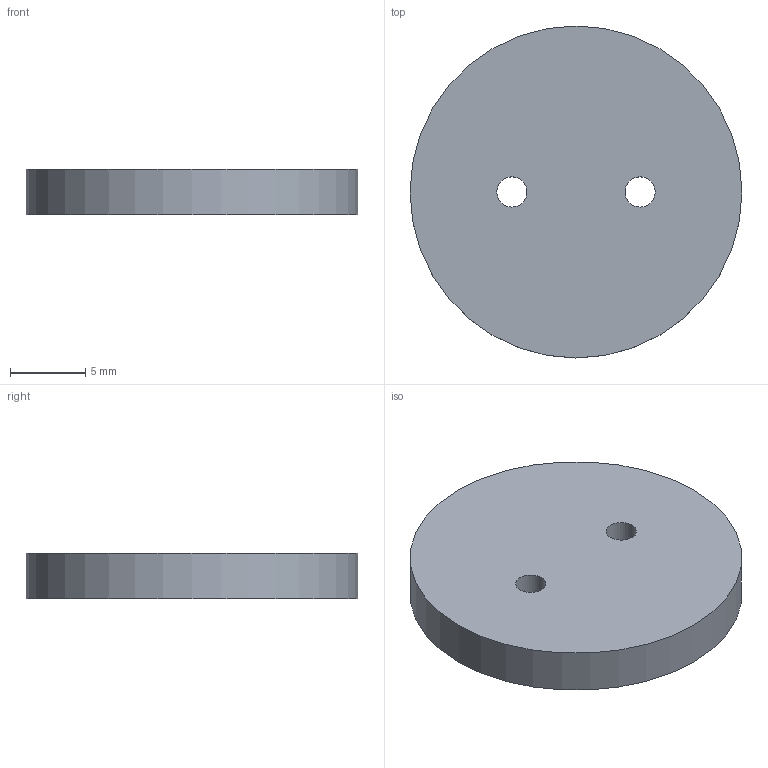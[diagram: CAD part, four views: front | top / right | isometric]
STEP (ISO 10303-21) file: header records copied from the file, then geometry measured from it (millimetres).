
FILE_DESCRIPTION(/* description */ ('Alibre Inc.'),/* implementation_level */ '2;1');
FILE_NAME(/* name */ 'export0',/* time_stamp */ '2013-07-16T12:56:26-06:00',/* author */ (''),/* organization */ (''),/* preprocessor_version */ 'ST-DEVELOPER v14',/* originating_system */ 'Alibre',/* authorisation */ '');
FILE_SCHEMA (('ALIBRE_SCHEMA','CONFIG_CONTROL_DESIGN'));
Length unit declared in the file: centimetre
Products named in the file (1): ID_1
Bounding box: 22 x 22 x 3 mm (x, y, z)
Volume: 1121.5 mm3; surface area: 992.7 mm2
Topology: 1 solids, 1 shells, 5 faces, 9 edges, 6 vertices
Faces by surface type: cylinder 3, plane 2
Full cylindrical faces by diameter (mm): 2 x2, 22 x1
Entity records: 670 total; most frequent: CARTESIAN_POINT 58, DIRECTION 41, INTEGERVALUEPAIR 33, CONSTRAINTPAIRUV 26, REFERENCEDEPENDENTUV 24, REALVALUEPAIR 24, ENTITYHEADERPROPERTIES 18, AXIS2_PLACEMENT_3D 16
